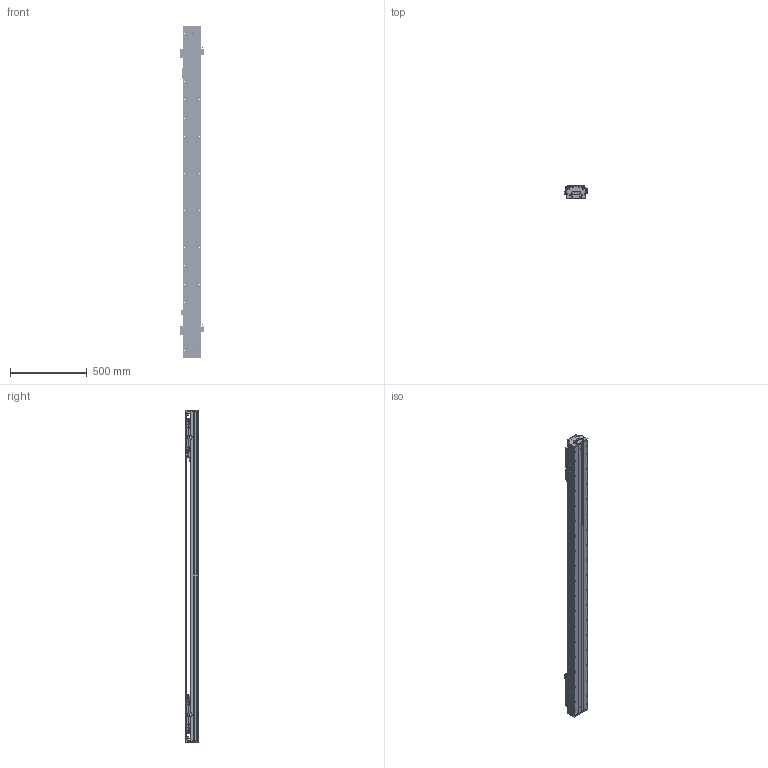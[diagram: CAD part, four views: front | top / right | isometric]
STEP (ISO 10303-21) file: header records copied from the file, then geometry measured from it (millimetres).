
FILE_DESCRIPTION (( 'STEP AP203' ), '1' );
FILE_NAME ('DKW120-2×B3-W060（T1520-L005-0.2）.STEP', '2021-09-29T01:24:21', ( '微软用户' ), ( '微软中国' ), 'SwSTEP 2.0', 'SolidWorks 2018', '' );
FILE_SCHEMA (( 'CONFIG_CONTROL_DESIGN' ));
Length unit declared in the file: millimetre
Products named in the file (22): 12160-0000-003-00 DKW120詩湍嶺輸; EE_SX674A; 12160-0000-004-00  DKW120詩湍揤輸; DKW120-B15-T300-DZ-00 菁釱; B3-W060_00; DKW120 单轴模组-拉钢带组件; MSB15-DG-U; DKW-DG-XJ-Z-00 笢潔滅袉砎蝶; BKMA01-W060-TRL280; 06652-0001-001-00 DKW120傷啣; DKW-GYP-ZJ-00 笢潔嫖萇覜茼え; RUS嫖掑喜; 06652-0001-004-00 DKW120嶺輸菜輸; DKW-KGZ-ZJ-00 中间光电开关支架; Ru2; DKW-HXJ-JY-00 遣喳砎蝶; DKW120-2×B3-W060（T1520-L005-0.2）; DKW119-RU-DTJ-00 RU2黍杅芛盓殤; 10940-0001-004-00 120詩湍裔啣; 10980-0001-003-00 嫖萇羲壽嘐隅釱; 砎蝶猾沭; DKW-SG-GYP-H-00 嫖萇覜茼え
Assembly tree (41 placements, depth 3):
  DKW120-2×B3-W060（T1520-L005-0.2）
    DKW120-B15-T300-DZ-00 菁釱
    MSB15-DG-U  x2
    DKW120 单轴模组-拉钢带组件
      06652-0001-001-00 DKW120傷啣  x2
      06652-0001-004-00 DKW120嶺輸菜輸  x4
      DKW-HXJ-JY-00 遣喳砎蝶  x4
      10940-0001-004-00 120詩湍裔啣
      砎蝶猾沭  x2
      12160-0000-003-00 DKW120詩湍嶺輸  x2
      12160-0000-004-00  DKW120詩湍揤輸  x2
    BKMA01-W060-TRL280
    RUS嫖掑喜
    Ru2  x2
    DKW119-RU-DTJ-00 RU2黍杅芛盓殤  x2
    10980-0001-003-00 嫖萇羲壽嘐隅釱  x2
    DKW-SG-GYP-H-00 嫖萇覜茼え  x2
    EE_SX674A  x5
    B3-W060_00  x2
    DKW-DG-XJ-Z-00 笢潔滅袉砎蝶
    DKW-GYP-ZJ-00 笢潔嫖萇覜茼え
    DKW-KGZ-ZJ-00 中间光电开关支架
Bounding box: 154.1 x 84 x 2156 mm (x, y, z)
Volume: 8399502.3 mm3; surface area: 3174329.3 mm2
Topology: 60 solids, 158 shells, 6660 faces, 18106 edges, 11659 vertices
Faces by surface type: plane 3634, cylinder 2012, cone 520, bspline 494
Entity records: 145258 total; most frequent: CARTESIAN_POINT 49654, ORIENTED_EDGE 19805, DIRECTION 18466, EDGE_CURVE 9943, VERTEX_POINT 6525, AXIS2_PLACEMENT_3D 6214, LINE 6038, VECTOR 6038
